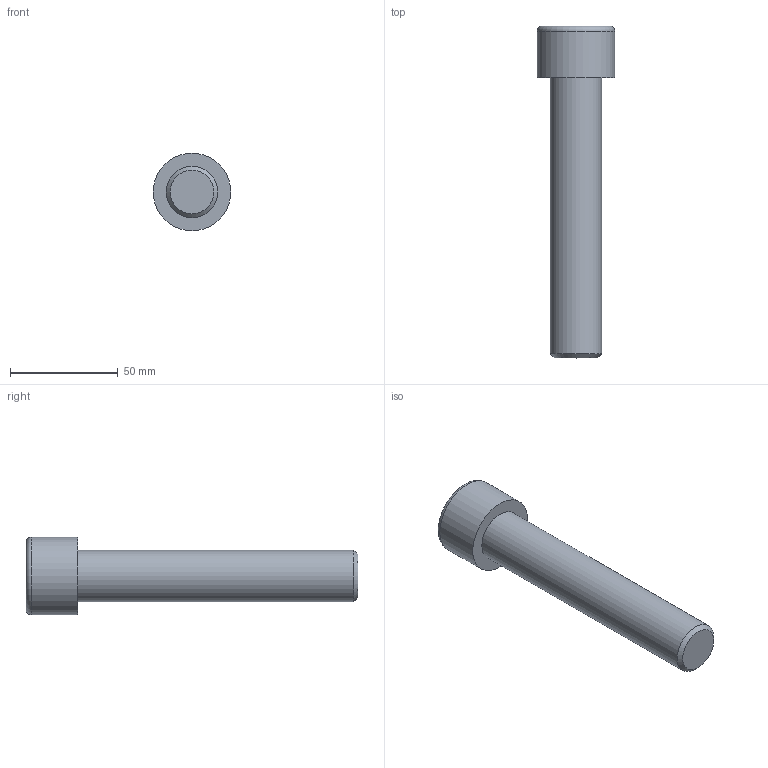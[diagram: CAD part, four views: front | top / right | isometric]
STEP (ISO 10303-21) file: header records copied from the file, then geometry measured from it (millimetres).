
FILE_DESCRIPTION(/* description */ (''),/* implementation_level */ '2;1');
FILE_NAME(/* name */ 'C:\Users\D\Documents\Inventor\各種小物\JIS\JIS B 1176 六角穴付きボルト\M24x130.stp',/* time_stamp */ '2022-05-09T18:59:47+09:00',/* author */ ('D'),/* organization */ (''),/* preprocessor_version */ 'ST-DEVELOPER v18',/* originating_system */ 'Autodesk Inventor 2020',/* authorisation */ '');
FILE_SCHEMA (('AUTOMOTIVE_DESIGN { 1 0 10303 214 3 1 1 }'));
Length unit declared in the file: millimetre
Products named in the file (1): M1.6x2.5
Bounding box: 36 x 154 x 36 mm (x, y, z)
Volume: 78455.1 mm3; surface area: 15222 mm2
Topology: 1 solids, 1 shells, 14 faces, 33 edges, 22 vertices
Faces by surface type: plane 9, cone 2, cylinder 2, torus 1
Full cylindrical faces by diameter (mm): 24 x1, 36 x1
Entity records: 435 total; most frequent: CARTESIAN_POINT 83, ORIENTED_EDGE 64, DIRECTION 64, EDGE_CURVE 32, AXIS2_PLACEMENT_3D 24, VERTEX_POINT 22, EDGE_LOOP 16, LINE 16
